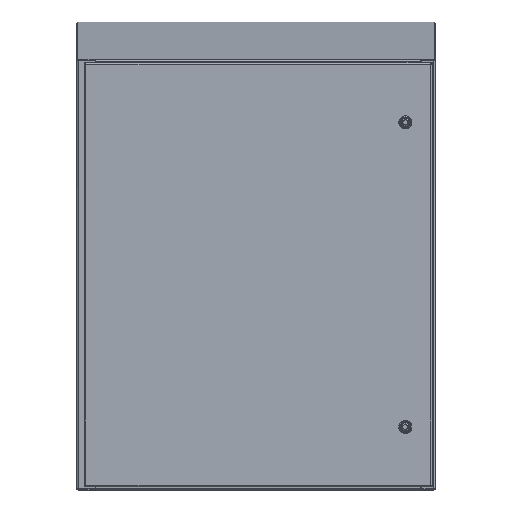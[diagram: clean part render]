
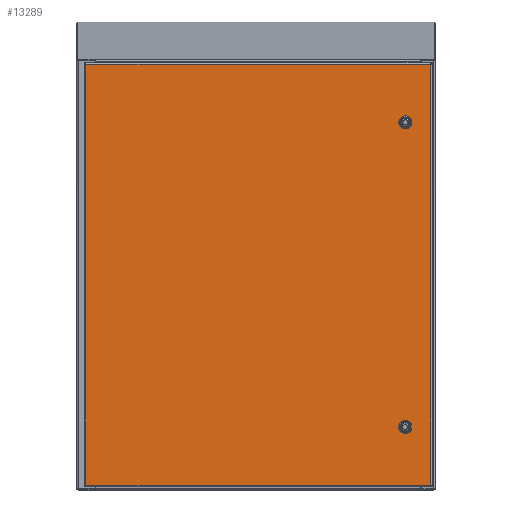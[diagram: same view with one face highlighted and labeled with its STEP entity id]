
A CAD part, top view. The second image highlights one B-rep face of the part: STEP entity #13289.
In plain terms, the highlighted planar face has unit normal (0, 0, 1).
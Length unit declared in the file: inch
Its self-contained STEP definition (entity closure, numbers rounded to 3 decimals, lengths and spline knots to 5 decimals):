
#10748=CARTESIAN_POINT('',(12.3125,12.75,0.));
#10749=DIRECTION('',(0.,0.,1.));
#10750=DIRECTION('',(-0.448,0.894,0.));
#10751=AXIS2_PLACEMENT_3D('',#10748,#10749,#10750);
#10756=DIRECTION('',(0.,-1.,0.));
#10757=VECTOR('',#10756,0.39715);
#10758=CARTESIAN_POINT('',(11.9165,12.94858,0.));
#10759=LINE('',#10758,#10757);
#10763=CARTESIAN_POINT('',(12.3125,12.75,0.));
#10764=DIRECTION('',(0.,0.,1.));
#10765=DIRECTION('',(-0.894,-0.448,0.));
#10766=AXIS2_PLACEMENT_3D('',#10763,#10764,#10765);
#10771=DIRECTION('',(1.,0.,0.));
#10772=VECTOR('',#10771,0.39715);
#10773=CARTESIAN_POINT('',(12.11392,12.354,0.));
#10774=LINE('',#10773,#10772);
#10778=CARTESIAN_POINT('',(12.3125,12.75,0.));
#10779=DIRECTION('',(0.,0.,1.));
#10780=DIRECTION('',(0.448,-0.894,0.));
#10781=AXIS2_PLACEMENT_3D('',#10778,#10779,#10780);
#10786=DIRECTION('',(0.,1.,0.));
#10787=VECTOR('',#10786,0.39715);
#10788=CARTESIAN_POINT('',(12.7085,12.55142,0.));
#10789=LINE('',#10788,#10787);
#10793=CARTESIAN_POINT('',(12.3125,12.75,0.));
#10794=DIRECTION('',(0.,0.,1.));
#10795=DIRECTION('',(0.894,0.448,0.));
#10796=AXIS2_PLACEMENT_3D('',#10793,#10794,#10795);
#10801=DIRECTION('',(-1.,0.,0.));
#10802=VECTOR('',#10801,0.39715);
#10803=CARTESIAN_POINT('',(12.51108,13.146,0.));
#10804=LINE('',#10803,#10802);
#10808=CARTESIAN_POINT('',(12.3125,-12.75,0.));
#10809=DIRECTION('',(0.,0.,1.));
#10810=DIRECTION('',(-0.448,0.894,0.));
#10811=AXIS2_PLACEMENT_3D('',#10808,#10809,#10810);
#10816=DIRECTION('',(0.,-1.,0.));
#10817=VECTOR('',#10816,0.39715);
#10818=CARTESIAN_POINT('',(11.9165,-12.55142,0.));
#10819=LINE('',#10818,#10817);
#10823=CARTESIAN_POINT('',(12.3125,-12.75,0.));
#10824=DIRECTION('',(0.,0.,1.));
#10825=DIRECTION('',(-0.894,-0.448,0.));
#10826=AXIS2_PLACEMENT_3D('',#10823,#10824,#10825);
#10831=DIRECTION('',(1.,0.,0.));
#10832=VECTOR('',#10831,0.39715);
#10833=CARTESIAN_POINT('',(12.11392,-13.146,0.));
#10834=LINE('',#10833,#10832);
#10838=CARTESIAN_POINT('',(12.3125,-12.75,0.));
#10839=DIRECTION('',(0.,0.,1.));
#10840=DIRECTION('',(0.448,-0.894,0.));
#10841=AXIS2_PLACEMENT_3D('',#10838,#10839,#10840);
#10846=DIRECTION('',(0.,1.,0.));
#10847=VECTOR('',#10846,0.39715);
#10848=CARTESIAN_POINT('',(12.7085,-12.94858,0.));
#10849=LINE('',#10848,#10847);
#10853=CARTESIAN_POINT('',(12.3125,-12.75,0.));
#10854=DIRECTION('',(0.,0.,1.));
#10855=DIRECTION('',(0.894,0.448,0.));
#10856=AXIS2_PLACEMENT_3D('',#10853,#10854,#10855);
#10861=DIRECTION('',(-1.,0.,0.));
#10862=VECTOR('',#10861,0.39715);
#10863=CARTESIAN_POINT('',(12.51108,-12.354,0.));
#10864=LINE('',#10863,#10862);
#11272=DIRECTION('',(-1.,0.,0.));
#11273=VECTOR('',#11272,28.855);
#11274=CARTESIAN_POINT('',(14.4275,-17.615,0.));
#11275=LINE('',#11274,#11273);
#11376=DIRECTION('',(0.,-1.,0.));
#11377=VECTOR('',#11376,35.23);
#11378=CARTESIAN_POINT('',(14.4275,17.615,0.));
#11379=LINE('',#11378,#11377);
#11423=DIRECTION('',(1.,0.,0.));
#11424=VECTOR('',#11423,28.855);
#11425=CARTESIAN_POINT('',(-14.4275,17.615,0.));
#11426=LINE('',#11425,#11424);
#11534=DIRECTION('',(0.,1.,0.));
#11535=VECTOR('',#11534,35.23);
#11536=CARTESIAN_POINT('',(-14.4275,-17.615,0.));
#11537=LINE('',#11536,#11535);
#12952=CARTESIAN_POINT('',(14.4275,17.615,0.));
#12953=CARTESIAN_POINT('',(14.4275,-17.615,0.));
#12954=VERTEX_POINT('',#12952);
#12955=VERTEX_POINT('',#12953);
#12956=CARTESIAN_POINT('',(-14.4275,-17.615,0.));
#12957=CARTESIAN_POINT('',(-14.4275,17.615,0.));
#12958=VERTEX_POINT('',#12956);
#12959=VERTEX_POINT('',#12957);
#13000=CARTESIAN_POINT('',(12.11392,13.146,0.));
#13001=CARTESIAN_POINT('',(11.9165,12.94858,0.));
#13002=VERTEX_POINT('',#13000);
#13003=VERTEX_POINT('',#13001);
#13004=CARTESIAN_POINT('',(11.9165,12.55142,0.));
#13005=VERTEX_POINT('',#13004);
#13006=CARTESIAN_POINT('',(12.11392,12.354,0.));
#13007=VERTEX_POINT('',#13006);
#13008=CARTESIAN_POINT('',(12.51108,12.354,0.));
#13009=VERTEX_POINT('',#13008);
#13010=CARTESIAN_POINT('',(12.7085,12.55142,0.));
#13011=VERTEX_POINT('',#13010);
#13012=CARTESIAN_POINT('',(12.7085,12.94858,0.));
#13013=VERTEX_POINT('',#13012);
#13014=CARTESIAN_POINT('',(12.51108,13.146,0.));
#13015=VERTEX_POINT('',#13014);
#13032=CARTESIAN_POINT('',(12.11392,-12.354,0.));
#13033=CARTESIAN_POINT('',(11.9165,-12.55142,0.));
#13034=VERTEX_POINT('',#13032);
#13035=VERTEX_POINT('',#13033);
#13036=CARTESIAN_POINT('',(11.9165,-12.94858,0.));
#13037=VERTEX_POINT('',#13036);
#13038=CARTESIAN_POINT('',(12.11392,-13.146,0.));
#13039=VERTEX_POINT('',#13038);
#13040=CARTESIAN_POINT('',(12.51108,-13.146,0.));
#13041=VERTEX_POINT('',#13040);
#13042=CARTESIAN_POINT('',(12.7085,-12.94858,0.));
#13043=VERTEX_POINT('',#13042);
#13044=CARTESIAN_POINT('',(12.7085,-12.55142,0.));
#13045=VERTEX_POINT('',#13044);
#13046=CARTESIAN_POINT('',(12.51108,-12.354,0.));
#13047=VERTEX_POINT('',#13046);
#13238=CARTESIAN_POINT('',(0.,0.,0.));
#13239=DIRECTION('',(0.,0.,-1.));
#13240=DIRECTION('',(1.,0.,0.));
#13241=AXIS2_PLACEMENT_3D('',#13238,#13239,#13240);
#13242=PLANE('',#13241);
#13244=ORIENTED_EDGE('',*,*,#13243,.T.);
#13246=ORIENTED_EDGE('',*,*,#13245,.T.);
#13248=ORIENTED_EDGE('',*,*,#13247,.T.);
#13250=ORIENTED_EDGE('',*,*,#13249,.T.);
#13251=EDGE_LOOP('',(#13244,#13246,#13248,#13250));
#13252=FACE_OUTER_BOUND('',#13251,.F.);
#13254=ORIENTED_EDGE('',*,*,#13253,.T.);
#13256=ORIENTED_EDGE('',*,*,#13255,.T.);
#13258=ORIENTED_EDGE('',*,*,#13257,.T.);
#13260=ORIENTED_EDGE('',*,*,#13259,.T.);
#13262=ORIENTED_EDGE('',*,*,#13261,.T.);
#13264=ORIENTED_EDGE('',*,*,#13263,.T.);
#13266=ORIENTED_EDGE('',*,*,#13265,.T.);
#13268=ORIENTED_EDGE('',*,*,#13267,.T.);
#13269=EDGE_LOOP('',(#13254,#13256,#13258,#13260,#13262,#13264,#13266,#13268));
#13270=FACE_BOUND('',#13269,.F.);
#13272=ORIENTED_EDGE('',*,*,#13271,.T.);
#13274=ORIENTED_EDGE('',*,*,#13273,.T.);
#13276=ORIENTED_EDGE('',*,*,#13275,.T.);
#13278=ORIENTED_EDGE('',*,*,#13277,.T.);
#13280=ORIENTED_EDGE('',*,*,#13279,.T.);
#13282=ORIENTED_EDGE('',*,*,#13281,.T.);
#13284=ORIENTED_EDGE('',*,*,#13283,.T.);
#13286=ORIENTED_EDGE('',*,*,#13285,.T.);
#13287=EDGE_LOOP('',(#13272,#13274,#13276,#13278,#13280,#13282,#13284,#13286));
#13288=FACE_BOUND('',#13287,.F.);
#10752=CIRCLE('',#10751,0.443);
#10767=CIRCLE('',#10766,0.443);
#10782=CIRCLE('',#10781,0.443);
#10797=CIRCLE('',#10796,0.443);
#10812=CIRCLE('',#10811,0.443);
#10827=CIRCLE('',#10826,0.443);
#10842=CIRCLE('',#10841,0.443);
#10857=CIRCLE('',#10856,0.443);
#13243=EDGE_CURVE('',#12955,#12958,#11275,.T.);
#13245=EDGE_CURVE('',#12958,#12959,#11537,.T.);
#13247=EDGE_CURVE('',#12959,#12954,#11426,.T.);
#13249=EDGE_CURVE('',#12954,#12955,#11379,.T.);
#13253=EDGE_CURVE('',#13034,#13035,#10812,.T.);
#13255=EDGE_CURVE('',#13035,#13037,#10819,.T.);
#13257=EDGE_CURVE('',#13037,#13039,#10827,.T.);
#13259=EDGE_CURVE('',#13039,#13041,#10834,.T.);
#13261=EDGE_CURVE('',#13041,#13043,#10842,.T.);
#13263=EDGE_CURVE('',#13043,#13045,#10849,.T.);
#13265=EDGE_CURVE('',#13045,#13047,#10857,.T.);
#13267=EDGE_CURVE('',#13047,#13034,#10864,.T.);
#13271=EDGE_CURVE('',#13002,#13003,#10752,.T.);
#13273=EDGE_CURVE('',#13003,#13005,#10759,.T.);
#13275=EDGE_CURVE('',#13005,#13007,#10767,.T.);
#13277=EDGE_CURVE('',#13007,#13009,#10774,.T.);
#13279=EDGE_CURVE('',#13009,#13011,#10782,.T.);
#13281=EDGE_CURVE('',#13011,#13013,#10789,.T.);
#13283=EDGE_CURVE('',#13013,#13015,#10797,.T.);
#13285=EDGE_CURVE('',#13015,#13002,#10804,.T.);
#13289=ADVANCED_FACE('',(#13252,#13270,#13288),#13242,.F.);
